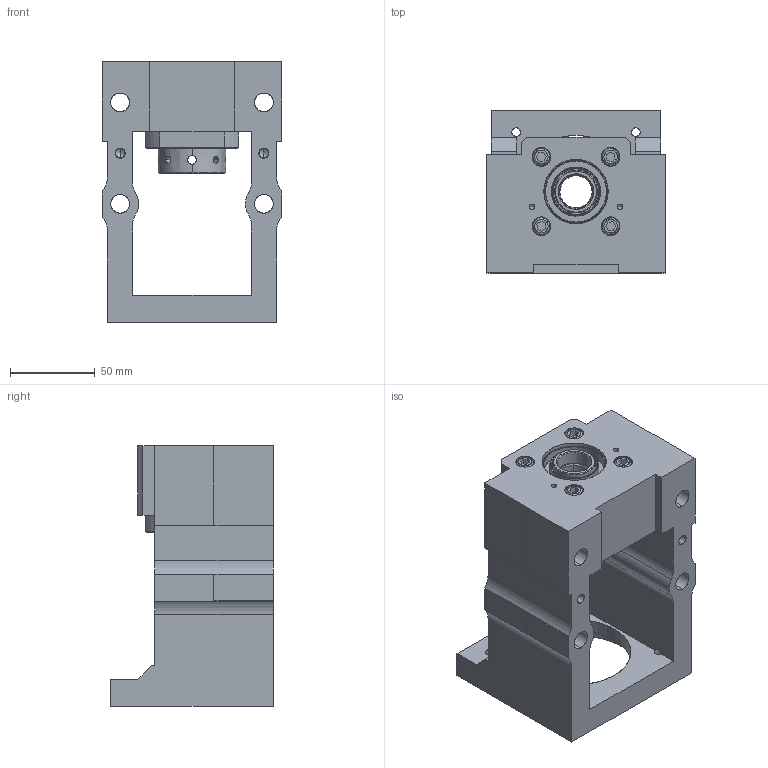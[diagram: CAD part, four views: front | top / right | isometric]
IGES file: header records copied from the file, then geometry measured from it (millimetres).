
Start section: SolidWorks IGES file using analytic representation for surfaces
Bounding box: 106 x 96 x 154 mm (x, y, z)
Surface area: 148268.4 mm2 (no closed solid volume)
Topology: 0 solids, 0 shells, 519 faces, 8200 edges, 8116 vertices
Faces by surface type: revolution 333, bspline 186
